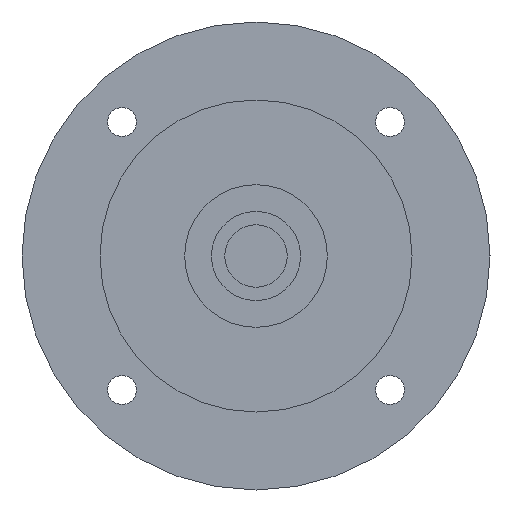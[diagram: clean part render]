
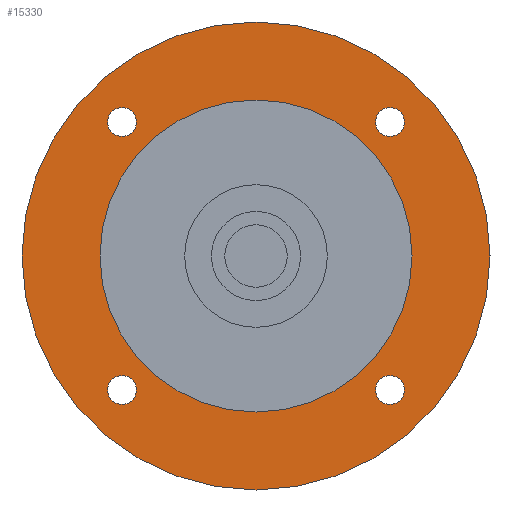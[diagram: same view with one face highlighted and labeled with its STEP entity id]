
A CAD part, left-side view. The second image highlights one B-rep face of the part: STEP entity #15330.
In plain terms, the highlighted planar face has unit normal (-1, 0, 0) as drawn and (0, 0, -1) by its records, which use the part's own axes.
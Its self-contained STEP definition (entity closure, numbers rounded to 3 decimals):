
#14000=CARTESIAN_POINT('',(52.5,0.,-91.5));
#14010=VERTEX_POINT('',#14000);
#14040=CARTESIAN_POINT('',(0.,0.,
-91.5));
#14050=DIRECTION('',(0.,0.,1.));
#14060=DIRECTION('',(0.,-1.,0.));
#14070=AXIS2_PLACEMENT_3D('',#14040,#14050,#14060);
#14080=CIRCLE('',#14070,52.5);
#14090=CARTESIAN_POINT('',(0.,-52.5,-91.5));
#14100=VERTEX_POINT('',#14090);
#14110=EDGE_CURVE('',#14100,#14010,#14080,.T.);
#14130=CARTESIAN_POINT('',(-52.5,0.,-91.5));
#14140=VERTEX_POINT('',#14130);
#14150=EDGE_CURVE('',#14140,#14100,#14080,.T.);
#14270=CARTESIAN_POINT('',(0.,0.,
-91.5));
#14280=DIRECTION('',(0.,0.,1.));
#14290=DIRECTION('',(-1.,0.,0.));
#14300=AXIS2_PLACEMENT_3D('',#14270,#14280,#14290);
#14310=PLANE('',#14300);
#14320=CARTESIAN_POINT('',(30.052,-30.052,-91.5));
#14330=DIRECTION('',(0.,0.,-1.));
#14340=DIRECTION('',(1.,0.,0.));
#14350=AXIS2_PLACEMENT_3D('',#14320,#14330,#14340);
#14360=CIRCLE('',#14350,3.25);
#14370=CARTESIAN_POINT('',(33.302,-30.052,-91.5));
#14380=VERTEX_POINT('',#14370);
#14390=CARTESIAN_POINT('',(30.052,-33.302,-91.5));
#14400=VERTEX_POINT('',#14390);
#14410=EDGE_CURVE('',#14380,#14400,#14360,.T.);
#14420=ORIENTED_EDGE('',*,*,#14410,.F.);
#14430=CARTESIAN_POINT('',(30.052,-26.802,-91.5));
#14440=VERTEX_POINT('',#14430);
#14450=EDGE_CURVE('',#14400,#14440,#14360,.T.);
#14460=ORIENTED_EDGE('',*,*,#14450,.F.);
#14470=EDGE_CURVE('',#14440,#14380,#14360,.T.);
#14480=ORIENTED_EDGE('',*,*,#14470,.F.);
#14490=EDGE_LOOP('',(#14480,#14460,#14420));
#14500=FACE_BOUND('',#14490,.T.);
#14510=CARTESIAN_POINT('',(30.052,30.052,-91.5));
#14520=DIRECTION('',(0.,0.,-1.));
#14530=DIRECTION('',(0.,1.,0.));
#14540=AXIS2_PLACEMENT_3D('',#14510,#14520,#14530);
#14550=CIRCLE('',#14540,3.25);
#14560=CARTESIAN_POINT('',(30.052,33.302,-91.5));
#14570=VERTEX_POINT('',#14560);
#14580=CARTESIAN_POINT('',(33.302,30.052,-91.5));
#14590=VERTEX_POINT('',#14580);
#14600=EDGE_CURVE('',#14570,#14590,#14550,.T.);
#14610=ORIENTED_EDGE('',*,*,#14600,.F.);
#14620=CARTESIAN_POINT('',(26.802,30.052,-91.5));
#14630=VERTEX_POINT('',#14620);
#14640=EDGE_CURVE('',#14590,#14630,#14550,.T.);
#14650=ORIENTED_EDGE('',*,*,#14640,.F.);
#14660=EDGE_CURVE('',#14630,#14570,#14550,.T.);
#14670=ORIENTED_EDGE('',*,*,#14660,.F.);
#14680=EDGE_LOOP('',(#14670,#14650,#14610));
#14690=FACE_BOUND('',#14680,.T.);
#14700=CARTESIAN_POINT('',(-30.052,30.052,-91.5));
#14710=DIRECTION('',(0.,0.,-1.));
#14720=DIRECTION('',(-1.,0.,0.));
#14730=AXIS2_PLACEMENT_3D('',#14700,#14710,#14720);
#14740=CIRCLE('',#14730,3.25);
#14750=CARTESIAN_POINT('',(-33.302,30.052,-91.5));
#14760=VERTEX_POINT('',#14750);
#14770=CARTESIAN_POINT('',(-30.052,33.302,-91.5));
#14780=VERTEX_POINT('',#14770);
#14790=EDGE_CURVE('',#14760,#14780,#14740,.T.);
#14800=ORIENTED_EDGE('',*,*,#14790,.F.);
#14810=CARTESIAN_POINT('',(-30.052,26.802,-91.5));
#14820=VERTEX_POINT('',#14810);
#14830=EDGE_CURVE('',#14780,#14820,#14740,.T.);
#14840=ORIENTED_EDGE('',*,*,#14830,.F.);
#14850=EDGE_CURVE('',#14820,#14760,#14740,.T.);
#14860=ORIENTED_EDGE('',*,*,#14850,.F.);
#14870=EDGE_LOOP('',(#14860,#14840,#14800));
#14880=FACE_BOUND('',#14870,.T.);
#14890=CARTESIAN_POINT('',(-30.052,-30.052,-91.5));
#14900=DIRECTION('',(0.,0.,-1.));
#14910=DIRECTION('',(0.,-1.,0.));
#14920=AXIS2_PLACEMENT_3D('',#14890,#14900,#14910);
#14930=CIRCLE('',#14920,3.25);
#14940=CARTESIAN_POINT('',(-30.052,-33.302,-91.5));
#14950=VERTEX_POINT('',#14940);
#14960=CARTESIAN_POINT('',(-33.302,-30.052,-91.5));
#14970=VERTEX_POINT('',#14960);
#14980=EDGE_CURVE('',#14950,#14970,#14930,.T.);
#14990=ORIENTED_EDGE('',*,*,#14980,.F.);
#15000=CARTESIAN_POINT('',(-26.802,-30.052,-91.5));
#15010=VERTEX_POINT('',#15000);
#15020=EDGE_CURVE('',#14970,#15010,#14930,.T.);
#15030=ORIENTED_EDGE('',*,*,#15020,.F.);
#15040=EDGE_CURVE('',#15010,#14950,#14930,.T.);
#15050=ORIENTED_EDGE('',*,*,#15040,.F.);
#15060=EDGE_LOOP('',(#15050,#15030,#14990));
#15070=FACE_BOUND('',#15060,.T.);
#15080=ORIENTED_EDGE('',*,*,#14110,.F.);
#15090=EDGE_CURVE('',#14010,#14140,#14080,.T.);
#15100=ORIENTED_EDGE('',*,*,#15090,.F.);
#15110=ORIENTED_EDGE('',*,*,#14150,.F.);
#15120=EDGE_LOOP('',(#15110,#15100,#15080));
#15130=FACE_OUTER_BOUND('',#15120,.T.);
#15140=CARTESIAN_POINT('',(0.,0.,
-91.5));
#15150=DIRECTION('',(0.,0.,1.));
#15160=DIRECTION('',(0.,-1.,0.));
#15170=AXIS2_PLACEMENT_3D('',#15140,#15150,#15160);
#15180=CIRCLE('',#15170,35.);
#15190=CARTESIAN_POINT('',(35.,0.,-91.5));
#15200=VERTEX_POINT('',#15190);
#15210=CARTESIAN_POINT('',(-35.,0.,-91.5));
#15220=VERTEX_POINT('',#15210);
#15230=EDGE_CURVE('',#15200,#15220,#15180,.T.);
#15240=ORIENTED_EDGE('',*,*,#15230,.T.);
#15250=CARTESIAN_POINT('',(0.,-35.,-91.5));
#15260=VERTEX_POINT('',#15250);
#15270=EDGE_CURVE('',#15260,#15200,#15180,.T.);
#15280=ORIENTED_EDGE('',*,*,#15270,.T.);
#15290=EDGE_CURVE('',#15220,#15260,#15180,.T.);
#15300=ORIENTED_EDGE('',*,*,#15290,.T.);
#15310=EDGE_LOOP('',(#15300,#15280,#15240));
#15320=FACE_BOUND('',#15310,.T.);
#15330=ADVANCED_FACE('',(#14500,#14690,#14880,#15070,#15130,#15320),
#14310,.F.);
